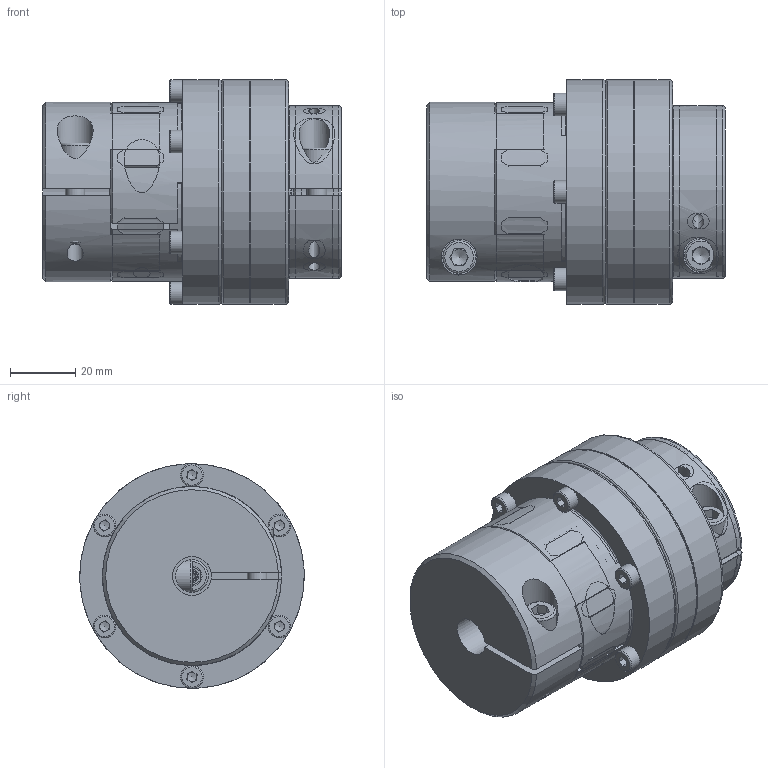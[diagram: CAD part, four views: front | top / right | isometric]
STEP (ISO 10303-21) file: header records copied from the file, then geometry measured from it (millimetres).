
FILE_DESCRIPTION( ( 'Unknown' ), '1' );
FILE_NAME( 'F:/JAKOB-STEP+IGES-Dateien/STEP-Dateien/SKB-EK/SKB-EK 45.stp', 'Unknown', ( 'Unknown' ), ( 'Unknown' ), 'XStep 1.0', 'Unknown', ' ' );
FILE_SCHEMA( ( 'CONFIG_CONTROL_DESIGN' ) );
Length unit declared in the file: millimetre
Products named in the file (11): SKB 45; Assem1; 23917252; KT102258; KT102577; KT101732; KT100050; Elastomerteil 2; kt101602; KT102316
Bounding box: 91.74 x 69 x 69 mm (x, y, z)
Surface area: 198643.8 mm2
Topology: 29 solids, 29 shells, 1280 faces, 3486 edges, 2229 vertices
Faces by surface type: plane 448, cylinder 441, cone 211, torus 144, sphere 36
Full cylindrical faces by diameter (mm): 2 x6, 3.3 x21, 4 x26, 4.3 x12, 5 x14, 6 x5, 6.5 x5, 7 x7, 10 x8, 11 x5, 12.5 x2, 27 x4, 28.6 x3, 29.8 x3, 30 x6, 35 x5, 36 x3, 38.2 x6, 38.893 x3, 39.293 x3, 47.1 x9, 54.2 x2, 55 x8, 55.5 x6, 58 x3, 59 x3, 66 x3, 69 x5
Entity records: 16892 total; most frequent: CARTESIAN_POINT 4717, DIRECTION 2462, ORIENTED_EDGE 2324, EDGE_CURVE 1162, AXIS2_PLACEMENT_3D 1060, VERTEX_POINT 803, EDGE_LOOP 682, CIRCLE 560
